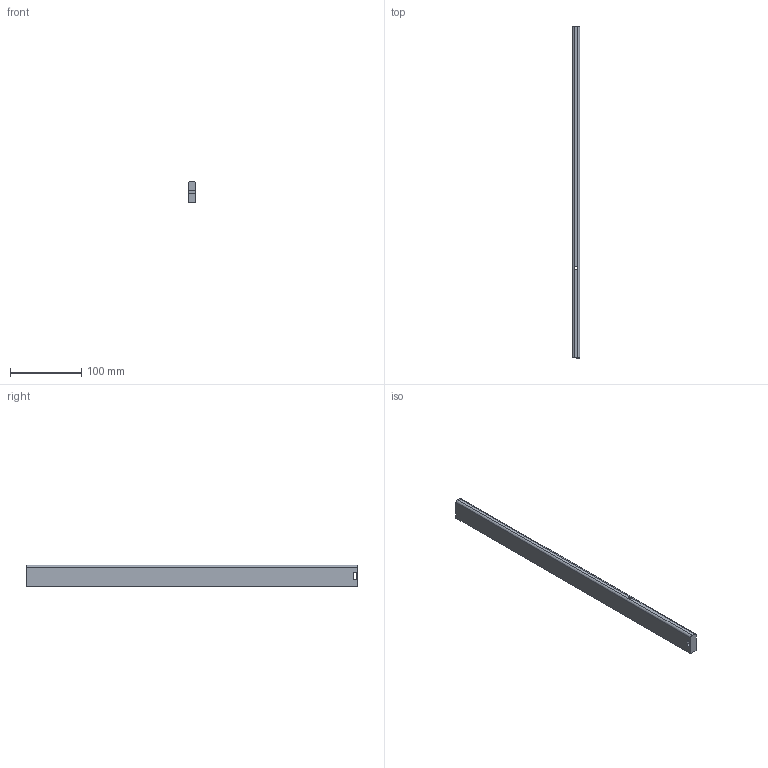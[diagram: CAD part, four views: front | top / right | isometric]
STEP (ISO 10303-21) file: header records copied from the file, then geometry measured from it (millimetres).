
FILE_DESCRIPTION (( 'STEP AP214' ), '1' );
FILE_NAME ('_Seitenreling_S760610200_RL465.step', '2010-09-06T14:51:46', ( 'grass' ), ( '' ), 'SwSTEP 2.0', 'SolidWorks 2010', '' );
FILE_SCHEMA (( 'AUTOMOTIVE_DESIGN' ));
Length unit declared in the file: millimetre
Products named in the file (1): _Seitenreling_S760610200_RL465
Bounding box: 10.5 x 465 x 30 mm (x, y, z)
Volume: 143291.1 mm3; surface area: 37808.9 mm2
Topology: 1 solids, 1 shells, 18 faces, 46 edges, 30 vertices
Faces by surface type: plane 10, cylinder 8
Entity records: 594 total; most frequent: DIRECTION 102, CARTESIAN_POINT 95, ORIENTED_EDGE 92, EDGE_CURVE 46, AXIS2_PLACEMENT_3D 37, VERTEX_POINT 30, VECTOR 28, LINE 28
